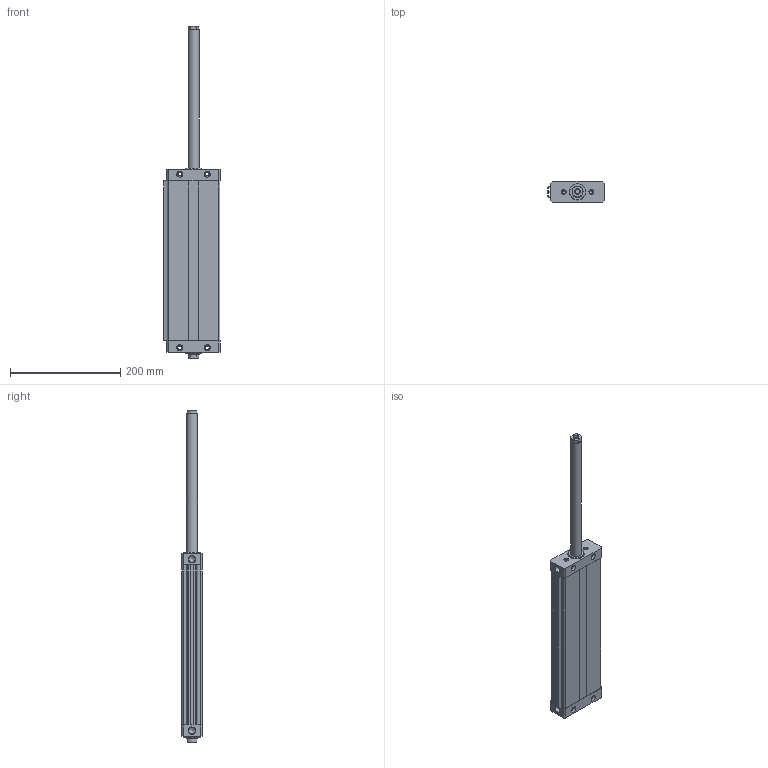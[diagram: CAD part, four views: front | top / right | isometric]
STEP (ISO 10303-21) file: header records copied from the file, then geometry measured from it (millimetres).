
FILE_DESCRIPTION((''),'2;1');
FILE_NAME('I:\Area Tecnica\Disegni\VARIE-3D\Componenti\1370 - CPO\1370_##_0000_03\1370_50_0250_03-01.iam.step','2010-12-16T11:00:09',(''),(''),'Autodesk Inventor 2011','Autodesk Inventor 2011','');
FILE_SCHEMA(('AUTOMOTIVE_DESIGN { 1 0 10303 214 1 1 1 1 }'));
Length unit declared in the file: millimetre
Products named in the file (5): 1370_50_0250_03-01; 1370_05_50_0000; 1370_06_50_0250; 1370_08_50_0000; 1370_3_50_0250
Assembly tree (4 placements, depth 2):
  1370_50_0250_03-01
    1370_05_50_0000
    1370_06_50_0250
    1370_08_50_0000
    1370_3_50_0250
Bounding box: 102.5 x 38 x 602 mm (x, y, z)
Volume: 835290.8 mm3; surface area: 230632.9 mm2
Topology: 4 solids, 4 shells, 164 faces, 398 edges, 252 vertices
Faces by surface type: plane 94, cylinder 50, cone 20
Full cylindrical faces by diameter (mm): 6.8 x18, 8.5 x2, 10.3 x2, 11 x8, 11.75 x2, 20 x4, 30 x2
Entity records: 4722 total; most frequent: DIRECTION 794, CARTESIAN_POINT 737, ORIENTED_EDGE 652, EDGE_CURVE 326, AXIS2_PLACEMENT_3D 295, EDGE_LOOP 254, VERTEX_POINT 238, VECTOR 204
